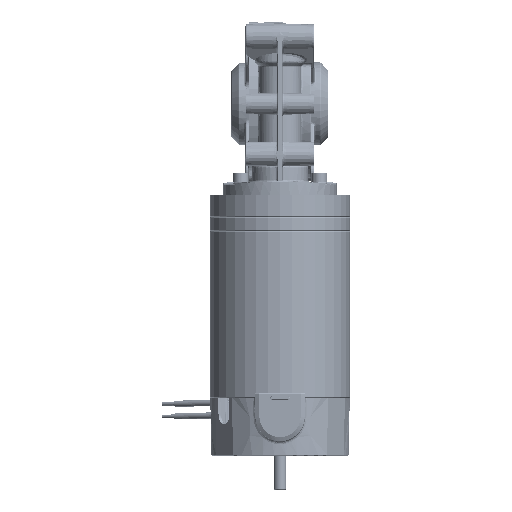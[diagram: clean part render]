
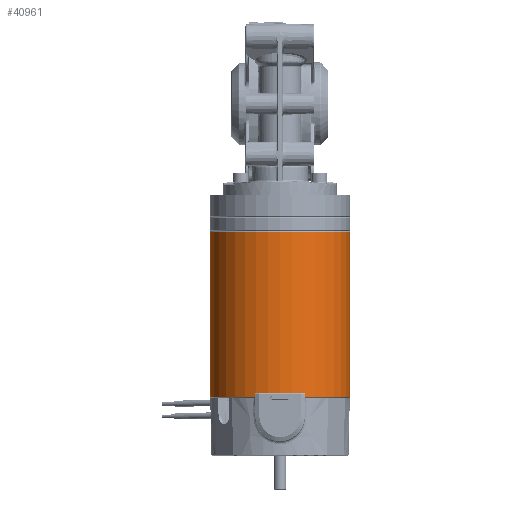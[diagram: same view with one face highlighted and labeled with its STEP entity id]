
A CAD part, front view. The second image highlights one B-rep face of the part: STEP entity #40961.
In plain terms, the highlighted cylindrical face has radius 45 mm (diameter 90 mm), a partial arc.
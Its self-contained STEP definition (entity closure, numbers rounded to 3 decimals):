
#5224 = VECTOR ( 'NONE', #187878, 1000. ) ;
#10668 = CIRCLE ( 'NONE', #198043, 45. ) ;
#20502 = VERTEX_POINT ( 'NONE', #136328 ) ;
#20988 = EDGE_LOOP ( 'NONE', ( #164995, #47223, #182940, #152551 ) ) ;
#29378 = CARTESIAN_POINT ( 'NONE',  ( 41.302, -12.233, -45.936 ) ) ;
#30432 = DIRECTION ( 'NONE',  ( 0., 0., 1. ) ) ;
#36734 = VERTEX_POINT ( 'NONE', #153700 ) ;
#40200 = CIRCLE ( 'NONE', #159465, 45. ) ;
#40961 = ADVANCED_FACE ( 'NONE', ( #43299 ), #45393, .T. ) ;
#41541 = VERTEX_POINT ( 'NONE', #95583 ) ;
#43299 = FACE_OUTER_BOUND ( 'NONE', #20988, .T. ) ;
#44054 = LINE ( 'NONE', #93119, #99142 ) ;
#45393 = CYLINDRICAL_SURFACE ( 'NONE', #104794, 45. ) ;
#47223 = ORIENTED_EDGE ( 'NONE', *, *, #71386, .T. ) ;
#53510 = CARTESIAN_POINT ( 'NONE',  ( -3.698, -12.233, 60.214 ) ) ;
#71386 = EDGE_CURVE ( 'NONE', #20502, #36734, #40200, .T. ) ;
#80557 = DIRECTION ( 'NONE',  ( 0., 0., 1. ) ) ;
#81606 = CARTESIAN_POINT ( 'NONE',  ( 41.302, -12.233, -45.436 ) ) ;
#93119 = CARTESIAN_POINT ( 'NONE',  ( 86.302, -12.233, -45.936 ) ) ;
#95583 = CARTESIAN_POINT ( 'NONE',  ( 86.302, -12.233, 60.214 ) ) ;
#99142 = VECTOR ( 'NONE', #158220, 1000. ) ;
#104637 = EDGE_CURVE ( 'NONE', #36734, #41541, #44054, .T. ) ;
#104794 = AXIS2_PLACEMENT_3D ( 'NONE', #29378, #30432, #160593 ) ;
#112471 = DIRECTION ( 'NONE',  ( -1., 0., 0. ) ) ;
#136328 = CARTESIAN_POINT ( 'NONE',  ( -3.698, -12.233, -45.436 ) ) ;
#152551 = ORIENTED_EDGE ( 'NONE', *, *, #174892, .T. ) ;
#153700 = CARTESIAN_POINT ( 'NONE',  ( 86.302, -12.233, -45.436 ) ) ;
#158220 = DIRECTION ( 'NONE',  ( 0., 0., 1. ) ) ;
#159465 = AXIS2_PLACEMENT_3D ( 'NONE', #81606, #80557, #112471 ) ;
#160593 = DIRECTION ( 'NONE',  ( 1., 0., 0. ) ) ;
#164995 = ORIENTED_EDGE ( 'NONE', *, *, #208833, .F. ) ;
#166510 = DIRECTION ( 'NONE',  ( -1., 0., 0. ) ) ;
#170830 = CARTESIAN_POINT ( 'NONE',  ( -3.698, -12.233, -45.936 ) ) ;
#174892 = EDGE_CURVE ( 'NONE', #41541, #187667, #10668, .T. ) ;
#182940 = ORIENTED_EDGE ( 'NONE', *, *, #104637, .T. ) ;
#187667 = VERTEX_POINT ( 'NONE', #53510 ) ;
#187878 = DIRECTION ( 'NONE',  ( 0., 0., 1. ) ) ;
#198043 = AXIS2_PLACEMENT_3D ( 'NONE', #198519, #199568, #166510 ) ;
#198519 = CARTESIAN_POINT ( 'NONE',  ( 41.302, -12.233, 60.214 ) ) ;
#199568 = DIRECTION ( 'NONE',  ( 0., 0., -1. ) ) ;
#204950 = LINE ( 'NONE', #170830, #5224 ) ;
#208833 = EDGE_CURVE ( 'NONE', #20502, #187667, #204950, .T. ) ;
